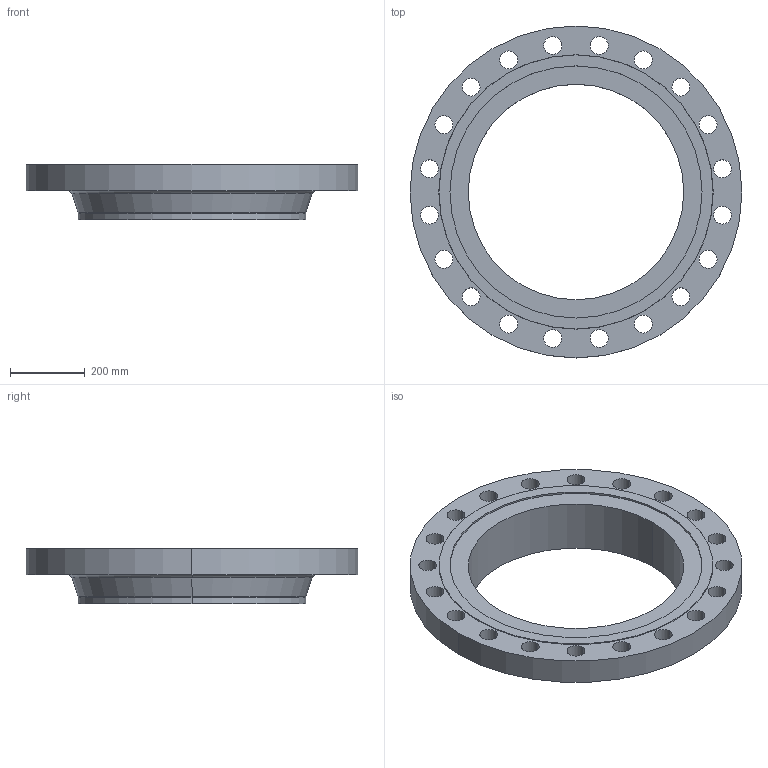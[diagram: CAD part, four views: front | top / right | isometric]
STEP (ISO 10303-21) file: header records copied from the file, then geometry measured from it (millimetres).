
FILE_DESCRIPTION (( 'STEP AP214' ), '1' );
FILE_NAME ('PN40 DN600 Type 11 - Type F Face.STEP', '2018-12-29T04:42:39', ( '' ), ( '' ), 'SwSTEP 2.0', 'SolidWorks 2019', '' );
FILE_SCHEMA (( 'AUTOMOTIVE_DESIGN' ));
Length unit declared in the file: millimetre
Products named in the file (1): PN40 DN600 Type 11 - Type F Face
Bounding box: 890 x 890 x 150 mm (x, y, z)
Volume: 25974348.8 mm3; surface area: 1447842.3 mm2
Topology: 1 solids, 1 shells, 61 faces, 162 edges, 106 vertices
Faces by surface type: cylinder 48, plane 5, torus 4, cone 4
Entity records: 2076 total; most frequent: DIRECTION 396, CARTESIAN_POINT 330, ORIENTED_EDGE 324, AXIS2_PLACEMENT_3D 172, EDGE_CURVE 162, CIRCLE 110, VERTEX_POINT 106, EDGE_LOOP 106
